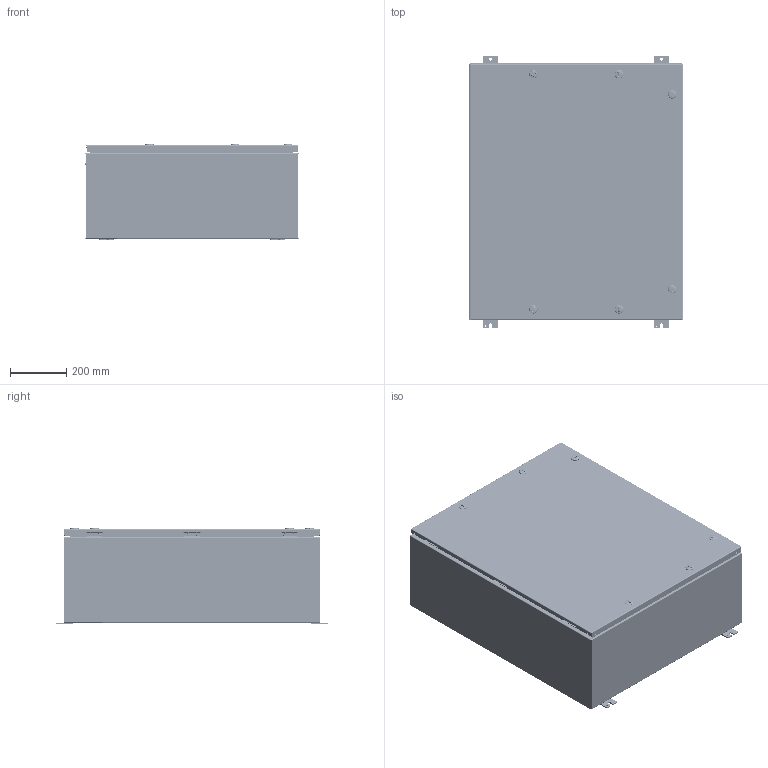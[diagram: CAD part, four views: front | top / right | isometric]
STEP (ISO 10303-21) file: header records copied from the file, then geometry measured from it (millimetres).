
FILE_DESCRIPTION((''),'2;1');
FILE_NAME('C:\Vault_Workspace\Inventor_Dwg\BoxCad\Result\5412ESPR363012\e-mail\3D\5412ESPR363012.stp','2014-04-10T04:01:42',(''),(''),'Autodesk Inventor 2012','Autodesk Inventor 2012','');
FILE_SCHEMA(('AUTOMOTIVE_DESIGN { 1 0 10303 214 1 1 1 1 }'));
Length unit declared in the file: inch
Products named in the file (42): 5412ESPR363012; 5412ESPR363012B; 5412ESPR363012B-P; STK-Q-16080; STK-Q-16005; STK-Q-71000; STK-P-02400S; STK-Q-07610; 881SP3630; 881SP3630-P; STK-P-02401S; STK-Q-07310; 5412ESPR363012C; 5412ESPR363012C-P; 5412ESPR363012G; STK-Q-33105; STK-A-33005PR-1; STK-Q-33005PR; STK-Q-90260; STK-Q-40010-1; STK-Q-40010-A; STK-Q-40010-B; STK-A-33005PR-2; STK-A-33005PR-3; STK-A-880SCQ4-SL-1; STK-Q-78110; STK-Q-78120; STK-Q-78145; STK-Q-03200; STK-Q-78125; STK-Q-78140; STK-Q-90390; STK-Q-78160; STK-A-880SCQ4-SL-2; STK-A-880SCQ4-SL-5; STK-A-880SCQ4-SL-7; STK-A-880SCQ4-SL-6; STK-A-880SCQ4-SL-8; STK-S-00100; STK-Q-03000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
Assembly tree (117 placements, depth 5):
  5412ESPR363012
    5412ESPR363012B
      5412ESPR363012B-P
      STK-Q-16080
      STK-Q-16005  x6
      STK-Q-71000  x4
      STK-P-02400S
    STK-Q-07610  x6
    881SP3630
      881SP3630-P
      STK-P-02401S
    STK-Q-07310  x6
    5412ESPR363012C
      5412ESPR363012C-P
      5412ESPR363012G
      STK-Q-33105  x3
      STK-A-33005PR-1
        STK-Q-33005PR
        STK-Q-90260  x2
        STK-Q-40010-1
          STK-Q-40010-A
          STK-Q-40010-B
      STK-A-33005PR-2
        STK-Q-33005PR
        STK-Q-90260  x2
        STK-Q-40010-1
          STK-Q-40010-A
          STK-Q-40010-B
      STK-A-33005PR-3
        STK-Q-33005PR
        STK-Q-90260  x2
        STK-Q-40010-1
          STK-Q-40010-A
          STK-Q-40010-B
      STK-A-880SCQ4-SL-1
        STK-Q-78110
        STK-Q-78120
        STK-Q-78145
        STK-Q-03200
        STK-Q-78125
        STK-Q-78140
        STK-Q-90390
        STK-Q-78160
      STK-A-880SCQ4-SL-2
        STK-Q-78110
        STK-Q-78120
        STK-Q-78145
        STK-Q-03200
        STK-Q-78125
        STK-Q-78140
        STK-Q-90390
        STK-Q-78160
      STK-A-880SCQ4-SL-5
        STK-Q-78110
        STK-Q-78120
        STK-Q-78145
        STK-Q-03200
        STK-Q-78125
        STK-Q-78140
        STK-Q-90390
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Bounding box: 762 x 971.56 x 342.87 mm (x, y, z)
Volume: 6754960.5 mm3; surface area: 6828760 mm2
Topology: 101 solids, 101 shells, 10947 faces, 29124 edges, 18330 vertices
Faces by surface type: plane 4200, bspline 3240, cylinder 2508, torus 544, cone 263, sphere 192
Full cylindrical faces by diameter (mm): 0.75 x8, 0.762 x12, 2.375 x6, 4.75 x6, 5 x6, 5.1 x60, 5.156 x4, 5.5 x3, 6.3 x6, 6.65 x6, 7 x6, 7.366 x9, 7.9 x6, 8 x12, 9.6 x6, 10 x6, 10.5 x3, 11.1 x4, 12.7 x2, 12.8 x6, 13 x6, 15.9 x6, 16 x6, 18.2 x6, 19.7 x6, 29 x6
Entity records: 102498 total; most frequent: CARTESIAN_POINT 45847, ORIENTED_EDGE 12674, DIRECTION 9495, EDGE_CURVE 6337, VERTEX_POINT 4069, AXIS2_PLACEMENT_3D 3294, VECTOR 2907, LINE 2907
